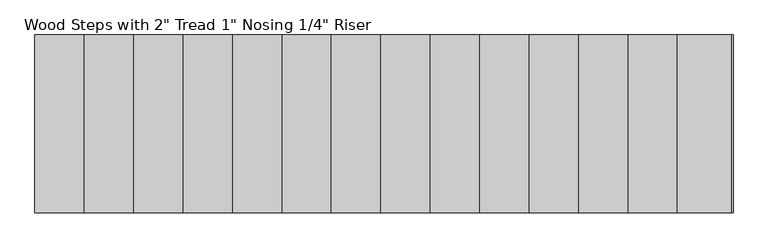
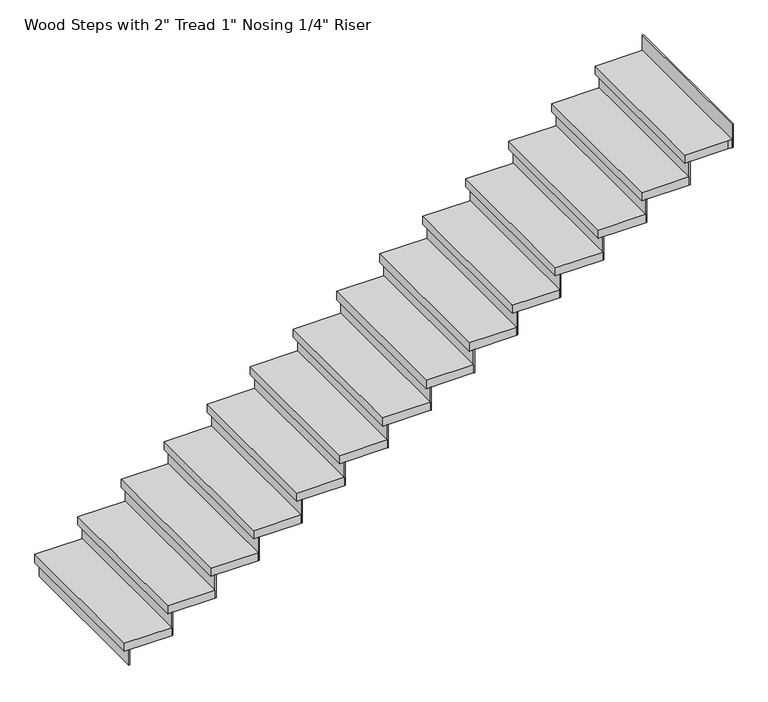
"""IFC4 building model written with IfcOpenShell, lengths in millimetres: stair flight geometry."""

from ifc_helpers import new_model, si_unit, frame, origin, origin_with_axes, place, context, project, spatial, polyline, outline, extrude, source, transform, mapped, element, save


def stair_flight_f9da42aa(model_context):
    return source(origin(), model_context, "Body", "SweptSolid", [
        extrude(outline(polyline([(-36107.8953515, 6638.322839), (-36114.2453515, 6638.322839), (-36114.2453515, 7552.722839), (-36107.8953515, 7552.722839), (-36107.8953515, 6638.322839)])), origin_with_axes(), (0.0, 0.0, 1.0), 94.3428571),
        extrude(outline(polyline([(-35860.2453515, 7552.722839), (-35860.2453515, 6638.322839), (-36139.6453515, 6638.322839), (-36139.6453515, 7552.722839), (-35860.2453515, 7552.722839)])), frame((0.0, 0.0, 94.3428571), z_axis=(0.0, 0.0, 1.0), x_axis=(1.0, 0.0, 0.0)), (0.0, 0.0, 1.0), 50.8),
        extrude(outline(polyline([(-35853.8953515, 6638.322839), (-35860.2453515, 6638.322839), (-35860.2453515, 7552.722839), (-35853.8953515, 7552.722839), (-35853.8953515, 6638.322839)])), frame((0.0, 0.0, 94.3428571), z_axis=(0.0, 0.0, 1.0), x_axis=(1.0, 0.0, 0.0)), (0.0, 0.0, 1.0), 145.1428571),
        extrude(outline(polyline([(-35606.2453515, 7552.722839), (-35606.2453515, 6638.322839), (-35885.6453515, 6638.322839), (-35885.6453515, 7552.722839), (-35606.2453515, 7552.722839)])), frame((0.0, 0.0, 239.4857143), z_axis=(0.0, 0.0, 1.0), x_axis=(1.0, 0.0, 0.0)), (0.0, 0.0, 1.0), 50.8),
        extrude(outline(polyline([(-35599.8953515, 6638.322839), (-35606.2453515, 6638.322839), (-35606.2453515, 7552.722839), (-35599.8953515, 7552.722839), (-35599.8953515, 6638.322839)])), frame((0.0, 0.0, 239.4857143), z_axis=(0.0, 0.0, 1.0), x_axis=(1.0, 0.0, 0.0)), (0.0, 0.0, 1.0), 145.1428571),
        extrude(outline(polyline([(-35352.2453515, 7552.722839), (-35352.2453515, 6638.322839), (-35631.6453515, 6638.322839), (-35631.6453515, 7552.722839), (-35352.2453515, 7552.722839)])), frame((0.0, 0.0, 384.6285714), z_axis=(0.0, 0.0, 1.0), x_axis=(1.0, 0.0, 0.0)), (0.0, 0.0, 1.0), 50.8),
        extrude(outline(polyline([(-35345.8953515, 6638.322839), (-35352.2453515, 6638.322839), (-35352.2453515, 7552.722839), (-35345.8953515, 7552.722839), (-35345.8953515, 6638.322839)])), frame((0.0, 0.0, 384.6285714), z_axis=(0.0, 0.0, 1.0), x_axis=(1.0, 0.0, 0.0)), (0.0, 0.0, 1.0), 145.1428571),
        extrude(outline(polyline([(-35098.2453515, 7552.722839), (-35098.2453515, 6638.322839), (-35377.6453515, 6638.322839), (-35377.6453515, 7552.722839), (-35098.2453515, 7552.722839)])), frame((0.0, 0.0, 529.7714286), z_axis=(0.0, 0.0, 1.0), x_axis=(1.0, 0.0, 0.0)), (0.0, 0.0, 1.0), 50.8),
        extrude(outline(polyline([(-35091.8953515, 6638.322839), (-35098.2453515, 6638.322839), (-35098.2453515, 7552.722839), (-35091.8953515, 7552.722839), (-35091.8953515, 6638.322839)])), frame((0.0, 0.0, 529.7714286), z_axis=(0.0, 0.0, 1.0), x_axis=(1.0, 0.0, 0.0)), (0.0, 0.0, 1.0), 145.1428571),
        extrude(outline(polyline([(-34844.2453515, 7552.722839), (-34844.2453515, 6638.322839), (-35123.6453515, 6638.322839), (-35123.6453515, 7552.722839), (-34844.2453515, 7552.722839)])), frame((0.0, 0.0, 674.9142857), z_axis=(0.0, 0.0, 1.0), x_axis=(1.0, 0.0, 0.0)), (0.0, 0.0, 1.0), 50.8),
        extrude(outline(polyline([(-34837.8953515, 6638.322839), (-34844.2453515, 6638.322839), (-34844.2453515, 7552.722839), (-34837.8953515, 7552.722839), (-34837.8953515, 6638.322839)])), frame((0.0, 0.0, 674.9142857), z_axis=(0.0, 0.0, 1.0), x_axis=(1.0, 0.0, 0.0)), (0.0, 0.0, 1.0), 145.1428571),
        extrude(outline(polyline([(-34590.2453515, 7552.722839), (-34590.2453515, 6638.322839), (-34869.6453515, 6638.322839), (-34869.6453515, 7552.722839), (-34590.2453515, 7552.722839)])), frame((0.0, 0.0, 820.0571429), z_axis=(0.0, 0.0, 1.0), x_axis=(1.0, 0.0, 0.0)), (0.0, 0.0, 1.0), 50.8),
        extrude(outline(polyline([(-34583.8953515, 6638.322839), (-34590.2453515, 6638.322839), (-34590.2453515, 7552.722839), (-34583.8953515, 7552.722839), (-34583.8953515, 6638.322839)])), frame((0.0, 0.0, 820.0571429), z_axis=(0.0, 0.0, 1.0), x_axis=(1.0, 0.0, 0.0)), (0.0, 0.0, 1.0), 145.1428571),
        extrude(outline(polyline([(-34336.2453515, 7552.722839), (-34336.2453515, 6638.322839), (-34615.6453515, 6638.322839), (-34615.6453515, 7552.722839), (-34336.2453515, 7552.722839)])), frame((0.0, 0.0, 965.2), z_axis=(0.0, 0.0, 1.0), x_axis=(1.0, 0.0, 0.0)), (0.0, 0.0, 1.0), 50.8),
        extrude(outline(polyline([(-34329.8953515, 6638.322839), (-34336.2453515, 6638.322839), (-34336.2453515, 7552.722839), (-34329.8953515, 7552.722839), (-34329.8953515, 6638.322839)])), frame((0.0, 0.0, 965.2), z_axis=(0.0, 0.0, 1.0), x_axis=(1.0, 0.0, 0.0)), (0.0, 0.0, 1.0), 145.1428571),
        extrude(outline(polyline([(-34082.2453515, 7552.722839), (-34082.2453515, 6638.322839), (-34361.6453515, 6638.322839), (-34361.6453515, 7552.722839), (-34082.2453515, 7552.722839)])), frame((0.0, 0.0, 1110.3428571), z_axis=(0.0, 0.0, 1.0), x_axis=(1.0, 0.0, 0.0)), (0.0, 0.0, 1.0), 50.8),
        extrude(outline(polyline([(-34075.8953515, 6638.322839), (-34082.2453515, 6638.322839), (-34082.2453515, 7552.722839), (-34075.8953515, 7552.722839), (-34075.8953515, 6638.322839)])), frame((0.0, 0.0, 1110.3428571), z_axis=(0.0, 0.0, 1.0), x_axis=(1.0, 0.0, 0.0)), (0.0, 0.0, 1.0), 145.1428571),
        extrude(outline(polyline([(-33828.2453515, 7552.722839), (-33828.2453515, 6638.322839), (-34107.6453515, 6638.322839), (-34107.6453515, 7552.722839), (-33828.2453515, 7552.722839)])), frame((0.0, 0.0, 1255.4857143), z_axis=(0.0, 0.0, 1.0), x_axis=(1.0, 0.0, 0.0)), (0.0, 0.0, 1.0), 50.8),
        extrude(outline(polyline([(-33821.8953515, 6638.322839), (-33828.2453515, 6638.322839), (-33828.2453515, 7552.722839), (-33821.8953515, 7552.722839), (-33821.8953515, 6638.322839)])), frame((0.0, 0.0, 1255.4857143), z_axis=(0.0, 0.0, 1.0), x_axis=(1.0, 0.0, 0.0)), (0.0, 0.0, 1.0), 145.1428571),
        extrude(outline(polyline([(-33574.2453515, 7552.722839), (-33574.2453515, 6638.322839), (-33853.6453515, 6638.322839), (-33853.6453515, 7552.722839), (-33574.2453515, 7552.722839)])), frame((0.0, 0.0, 1400.6285714), z_axis=(0.0, 0.0, 1.0), x_axis=(1.0, 0.0, 0.0)), (0.0, 0.0, 1.0), 50.8),
        extrude(outline(polyline([(-33567.8953515, 6638.322839), (-33574.2453515, 6638.322839), (-33574.2453515, 7552.722839), (-33567.8953515, 7552.722839), (-33567.8953515, 6638.322839)])), frame((0.0, 0.0, 1400.6285714), z_axis=(0.0, 0.0, 1.0), x_axis=(1.0, 0.0, 0.0)), (0.0, 0.0, 1.0), 145.1428571),
        extrude(outline(polyline([(-33320.2453515, 7552.722839), (-33320.2453515, 6638.322839), (-33599.6453515, 6638.322839), (-33599.6453515, 7552.722839), (-33320.2453515, 7552.722839)])), frame((0.0, 0.0, 1545.7714286), z_axis=(0.0, 0.0, 1.0), x_axis=(1.0, 0.0, 0.0)), (0.0, 0.0, 1.0), 50.8),
        extrude(outline(polyline([(-33313.8953515, 6638.322839), (-33320.2453515, 6638.322839), (-33320.2453515, 7552.722839), (-33313.8953515, 7552.722839), (-33313.8953515, 6638.322839)])), frame((0.0, 0.0, 1545.7714286), z_axis=(0.0, 0.0, 1.0), x_axis=(1.0, 0.0, 0.0)), (0.0, 0.0, 1.0), 145.1428571),
        extrude(outline(polyline([(-33066.2453515, 7552.722839), (-33066.2453515, 6638.322839), (-33345.6453515, 6638.322839), (-33345.6453515, 7552.722839), (-33066.2453515, 7552.722839)])), frame((0.0, 0.0, 1690.9142857), z_axis=(0.0, 0.0, 1.0), x_axis=(1.0, 0.0, 0.0)), (0.0, 0.0, 1.0), 50.8),
        extrude(outline(polyline([(-33059.8953515, 6638.322839), (-33066.2453515, 6638.322839), (-33066.2453515, 7552.722839), (-33059.8953515, 7552.722839), (-33059.8953515, 6638.322839)])), frame((0.0, 0.0, 1690.9142857), z_axis=(0.0, 0.0, 1.0), x_axis=(1.0, 0.0, 0.0)), (0.0, 0.0, 1.0), 145.1428571),
        extrude(outline(polyline([(-32812.2453515, 7552.722839), (-32812.2453515, 6638.322839), (-33091.6453515, 6638.322839), (-33091.6453515, 7552.722839), (-32812.2453515, 7552.722839)])), frame((0.0, 0.0, 1836.0571429), z_axis=(0.0, 0.0, 1.0), x_axis=(1.0, 0.0, 0.0)), (0.0, 0.0, 1.0), 50.8),
        extrude(outline(polyline([(-32551.8953515, 6638.322839), (-32558.2453515, 6638.322839), (-32558.2453515, 7552.722839), (-32551.8953515, 7552.722839), (-32551.8953515, 6638.322839)])), frame((0.0, 0.0, 1981.2), z_axis=(0.0, 0.0, 1.0), x_axis=(1.0, 0.0, 0.0)), (0.0, 0.0, 1.0), 145.1428571),
        extrude(outline(polyline([(-32805.8953515, 6638.322839), (-32812.2453515, 6638.322839), (-32812.2453515, 7552.722839), (-32805.8953515, 7552.722839), (-32805.8953515, 6638.322839)])), frame((0.0, 0.0, 1836.0571429), z_axis=(0.0, 0.0, 1.0), x_axis=(1.0, 0.0, 0.0)), (0.0, 0.0, 1.0), 145.1428571),
        extrude(outline(polyline([(-32558.2453515, 7552.722839), (-32558.2453515, 6638.322839), (-32583.6453515, 6638.322839), (-32837.6453515, 6638.322839), (-32837.6453515, 7552.722839), (-32583.6453515, 7552.722839), (-32558.2453515, 7552.722839)])), frame((0.0, 0.0, 1981.2), z_axis=(0.0, 0.0, 1.0), x_axis=(1.0, 0.0, 0.0)), (0.0, 0.0, 1.0), 50.8),
    ])


if __name__ == "__main__":
    model = new_model("IFC4")
    model_context = context("Model", 3, world=origin())
    ifc_project = project(units=[si_unit("LENGTHUNIT", "METRE", prefix="MILLI")], contexts=[model_context])
    site = spatial("IfcSite", under=ifc_project)
    building = spatial("IfcBuilding", under=site)
    placement = place(None, origin())
    stair_flight_shape = stair_flight_f9da42aa(model_context)
    element("IfcStairFlight", 1, ObjectType="Wood Steps with 2\" Tread 1\" Nosing 1/4\" Riser", at=placement, inside=building, context=model_context, shape_type="MappedRepresentation", body=[
        mapped(stair_flight_shape, transform((0.0, 0.0, 0.0), x_axis=(1.0, 0.0, 0.0), y_axis=(0.0, 1.0, 0.0), z_axis=(0.0, 0.0, 1.0))),
    ])
    save(model, "model.ifc")
